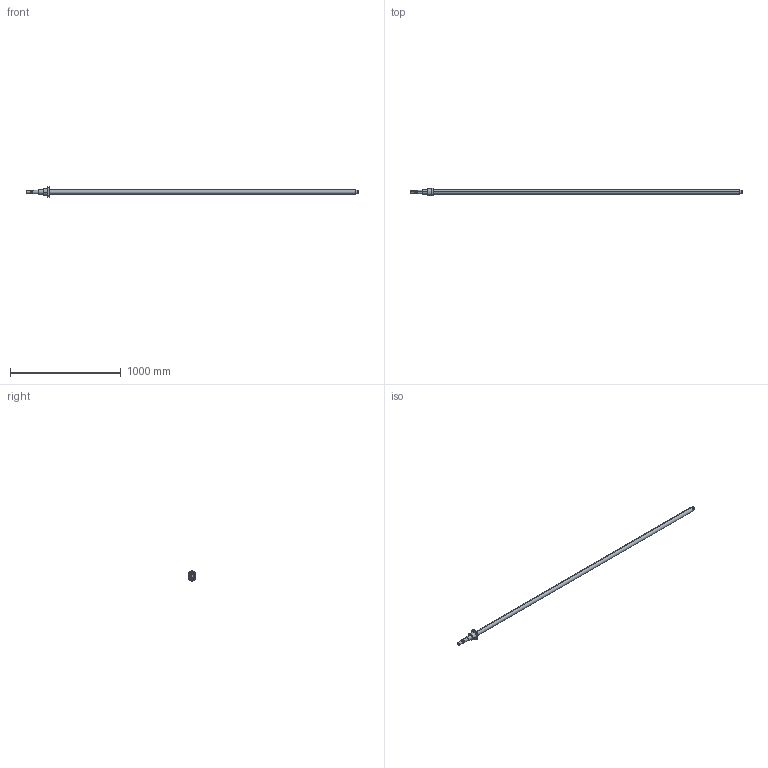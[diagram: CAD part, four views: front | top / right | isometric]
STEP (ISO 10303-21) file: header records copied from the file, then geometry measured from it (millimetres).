
FILE_DESCRIPTION (( 'STEP AP214' ), '1' );
FILE_NAME ('7.3015 STNUR4005-3000mm.STEP', '2026-03-04T08:24:28', ( '' ), ( '' ), 'SwSTEP 2.0', 'SolidWorks 2025', '' );
FILE_SCHEMA (( 'AUTOMOTIVE_DESIGN' ));
Length unit declared in the file: millimetre
Products named in the file (3): 7.3015 STNUR4005-3000mm; 7.3040 TCR4005-FC7; 7.3110 STNUR4005T4D
Assembly tree (2 placements, depth 2):
  7.3015 STNUR4005-3000mm
    7.3040 TCR4005-FC7
    7.3110 STNUR4005T4D
Bounding box: 3000 x 70 x 93 mm (x, y, z)
Volume: 3819553.6 mm3; surface area: 407146.9 mm2
Topology: 2 solids, 2 shells, 639 faces, 1780 edges, 1181 vertices
Faces by surface type: bspline 428, cylinder 100, plane 98, cone 13
Entity records: 32670 total; most frequent: CARTESIAN_POINT 19120, ORIENTED_EDGE 3560, EDGE_CURVE 1780, DIRECTION 1436, VERTEX_POINT 1181, B_SPLINE_CURVE_WITH_KNOTS 804, LINE 802, VECTOR 802
